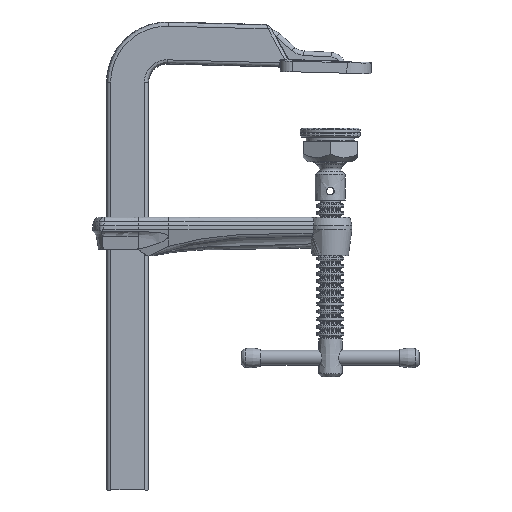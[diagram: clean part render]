
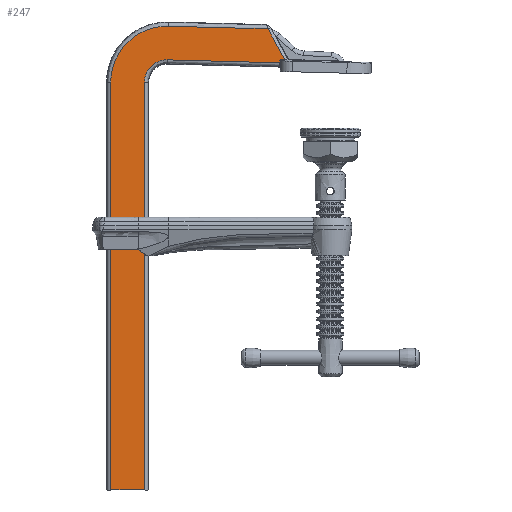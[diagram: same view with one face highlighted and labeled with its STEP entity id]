
A CAD part, front view. The second image highlights one B-rep face of the part: STEP entity #247.
In plain terms, the highlighted free-form (B-spline) face has degree [1, 1] with [2, 2] control points.
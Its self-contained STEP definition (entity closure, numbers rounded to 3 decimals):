
#51=CARTESIAN_POINT('',(25.085,5.375,-270.));
#52=VERTEX_POINT('',#51);
#53=CARTESIAN_POINT('',(2.815,5.375,-270.));
#54=VERTEX_POINT('',#53);
#55=CARTESIAN_POINT('',(25.085,5.375,-270.));
#56=CARTESIAN_POINT('',(23.179,5.375,-270.));
#57=CARTESIAN_POINT('',(13.95,5.375,-270.));
#58=CARTESIAN_POINT('',(4.721,5.375,-270.));
#59=CARTESIAN_POINT('',(2.815,5.375,-270.));
#60=B_SPLINE_CURVE_WITH_KNOTS('',1,(#55,#56,#57,#58,#59),.UNSPECIFIED.,.F.,.U.,(2,1,1,1,2),(0.,0.206,1.206,2.206,2.413),.UNSPECIFIED.);
#61=EDGE_CURVE('',#52,#54,#60,.T.);
#154=CARTESIAN_POINT('',(-238.421,5.375,68.24));
#155=CARTESIAN_POINT('',(-238.421,5.375,-300.858));
#156=CARTESIAN_POINT('',(130.677,5.375,68.24));
#157=CARTESIAN_POINT('',(130.677,5.375,-300.858));
#158=B_SPLINE_SURFACE_WITH_KNOTS('',1,1,((#154,#155),(#156,#157)),.PLANE_SURF.,.F.,.F.,.U.,(2,2),(2,2),(0.,1.),(0.,1.),.UNSPECIFIED.);
#159=CARTESIAN_POINT('',(-86.898,5.375,14.141));
#160=VERTEX_POINT('',#159);
#161=CARTESIAN_POINT('',(-87.924,5.375,15.114));
#162=VERTEX_POINT('',#161);
#163=CARTESIAN_POINT('',(-86.898,5.375,14.141));
#164=CARTESIAN_POINT('',(-86.904,5.375,14.391));
#165=CARTESIAN_POINT('',(-87.674,5.375,15.121));
#166=CARTESIAN_POINT('',(-87.924,5.375,15.114));
#167=B_SPLINE_CURVE_WITH_KNOTS('',2,(#163,#164,#165,#166),.UNSPECIFIED.,.F.,.U.,(3,1,3),(0.,0.5,1.),.UNSPECIFIED.);
#168=EDGE_CURVE('',#160,#162,#167,.T.);
#169=ORIENTED_EDGE('',*,*,#168,.T.);
#170=CARTESIAN_POINT('',(-90.058,5.375,15.059));
#171=VERTEX_POINT('',#170);
#172=CARTESIAN_POINT('',(-90.058,5.375,15.059));
#173=CARTESIAN_POINT('',(-87.924,5.375,15.114));
#174=B_SPLINE_CURVE_WITH_KNOTS('',1,(#172,#173),.POLYLINE_FORM.,.F.,.U.,(2,2),(0.083,0.826),.UNSPECIFIED.);
#175=EDGE_CURVE('',#171,#162,#174,.T.);
#176=ORIENTED_EDGE('',*,*,#175,.F.);
#177=CARTESIAN_POINT('',(-79.053,5.375,35.342));
#178=VERTEX_POINT('',#177);
#179=CARTESIAN_POINT('',(-79.053,5.375,35.342));
#180=CARTESIAN_POINT('',(-79.235,5.375,34.99));
#181=CARTESIAN_POINT('',(-79.578,5.375,34.36));
#182=CARTESIAN_POINT('',(-79.96,5.375,33.656));
#183=CARTESIAN_POINT('',(-80.532,5.375,32.603));
#184=CARTESIAN_POINT('',(-81.39,5.375,31.023));
#185=CARTESIAN_POINT('',(-82.676,5.375,28.654));
#186=CARTESIAN_POINT('',(-84.606,5.375,25.099));
#187=CARTESIAN_POINT('',(-87.378,5.375,19.995));
#188=CARTESIAN_POINT('',(-89.525,5.375,16.041));
#189=CARTESIAN_POINT('',(-90.058,5.375,15.059));
#190=B_SPLINE_CURVE_WITH_KNOTS('',2,(#179,#180,#181,#182,#183,#184,#185,#186,#187,#188,#189),.UNSPECIFIED.,.F.,.U.,(3,1,1,1,1,1,1,1,1,3),(0.,0.025,0.045,0.076,0.121,0.189,0.292,0.445,0.659,0.73),.UNSPECIFIED.);
#191=EDGE_CURVE('',#178,#171,#190,.T.);
#192=ORIENTED_EDGE('',*,*,#191,.F.);
#193=CARTESIAN_POINT('',(-12.971,5.375,37.072));
#194=VERTEX_POINT('',#193);
#195=CARTESIAN_POINT('',(-12.971,5.375,37.072));
#196=CARTESIAN_POINT('',(-79.053,5.375,35.342));
#197=B_SPLINE_CURVE_WITH_KNOTS('',1,(#195,#196),.POLYLINE_FORM.,.F.,.U.,(2,2),(0.,0.551),.UNSPECIFIED.);
#198=EDGE_CURVE('',#194,#178,#197,.T.);
#199=ORIENTED_EDGE('',*,*,#198,.F.);
#200=CARTESIAN_POINT('',(25.085,5.375,0.));
#201=VERTEX_POINT('',#200);
#202=CARTESIAN_POINT('',(-12.971,5.375,37.072));
#203=CARTESIAN_POINT('',(2.67,5.375,37.482));
#204=CARTESIAN_POINT('',(13.877,5.375,26.564));
#205=CARTESIAN_POINT('',(25.085,5.375,15.646));
#206=CARTESIAN_POINT('',(25.085,5.375,0.));
#207=(BOUNDED_CURVE()B_SPLINE_CURVE(2,(#202,#203,#204,#205,#206),.CIRCULAR_ARC.,.F.,.U.)B_SPLINE_CURVE_WITH_KNOTS((3,2,3),(0.,0.5,1.),.UNSPECIFIED.)CURVE()GEOMETRIC_REPRESENTATION_ITEM()RATIONAL_B_SPLINE_CURVE((1.,0.921,1.,0.921,1.))REPRESENTATION_ITEM(''));
#208=EDGE_CURVE('',#194,#201,#207,.T.);
#209=ORIENTED_EDGE('',*,*,#208,.T.);
#210=CARTESIAN_POINT('',(25.085,5.375,0.));
#211=CARTESIAN_POINT('',(25.085,5.375,-270.));
#212=B_SPLINE_CURVE_WITH_KNOTS('',1,(#210,#211),.POLYLINE_FORM.,.F.,.U.,(2,2),(0.,1.),.UNSPECIFIED.);
#213=EDGE_CURVE('',#201,#52,#212,.T.);
#214=ORIENTED_EDGE('',*,*,#213,.T.);
#215=ORIENTED_EDGE('',*,*,#61,.T.);
#216=CARTESIAN_POINT('',(2.815,5.375,0.));
#217=VERTEX_POINT('',#216);
#218=CARTESIAN_POINT('',(2.815,5.375,0.));
#219=CARTESIAN_POINT('',(2.815,5.375,-270.));
#220=B_SPLINE_CURVE_WITH_KNOTS('',1,(#218,#219),.POLYLINE_FORM.,.F.,.U.,(2,2),(0.,1.),.UNSPECIFIED.);
#221=EDGE_CURVE('',#217,#54,#220,.T.);
#222=ORIENTED_EDGE('',*,*,#221,.F.);
#223=CARTESIAN_POINT('',(-12.388,5.375,14.81));
#224=VERTEX_POINT('',#223);
#225=CARTESIAN_POINT('',(-12.388,5.375,14.81));
#226=CARTESIAN_POINT('',(-6.139,5.375,14.974));
#227=CARTESIAN_POINT('',(-1.662,5.375,10.612));
#228=CARTESIAN_POINT('',(2.815,5.375,6.251));
#229=CARTESIAN_POINT('',(2.815,5.375,0.));
#230=(BOUNDED_CURVE()B_SPLINE_CURVE(2,(#225,#226,#227,#228,#229),.UNSPECIFIED.,.F.,.U.)B_SPLINE_CURVE_WITH_KNOTS((3,2,3),(0.,0.5,1.),.UNSPECIFIED.)CURVE()GEOMETRIC_REPRESENTATION_ITEM()RATIONAL_B_SPLINE_CURVE((1.,0.921,1.,0.921,1.))REPRESENTATION_ITEM(''));
#231=EDGE_CURVE('',#224,#217,#230,.T.);
#232=ORIENTED_EDGE('',*,*,#231,.F.);
#233=CARTESIAN_POINT('',(-86.864,5.375,12.86));
#234=VERTEX_POINT('',#233);
#235=CARTESIAN_POINT('',(-12.388,5.375,14.81));
#236=CARTESIAN_POINT('',(-86.864,5.375,12.86));
#237=B_SPLINE_CURVE_WITH_KNOTS('',1,(#235,#236),.POLYLINE_FORM.,.F.,.U.,(2,2),(0.,0.621),.UNSPECIFIED.);
#238=EDGE_CURVE('',#224,#234,#237,.T.);
#239=ORIENTED_EDGE('',*,*,#238,.T.);
#240=CARTESIAN_POINT('',(-86.898,5.375,14.141));
#241=CARTESIAN_POINT('',(-86.864,5.375,12.86));
#242=B_SPLINE_CURVE_WITH_KNOTS('',1,(#240,#241),.POLYLINE_FORM.,.F.,.U.,(2,2),(0.952,1.),.UNSPECIFIED.);
#243=EDGE_CURVE('',#160,#234,#242,.T.);
#244=ORIENTED_EDGE('',*,*,#243,.F.);
#245=EDGE_LOOP('',(#169,#176,#192,#199,#209,#214,#215,#222,#232,#239,#244));
#246=FACE_OUTER_BOUND('',#245,.T.);
#247=ADVANCED_FACE('',(#246),#158,.T.);
